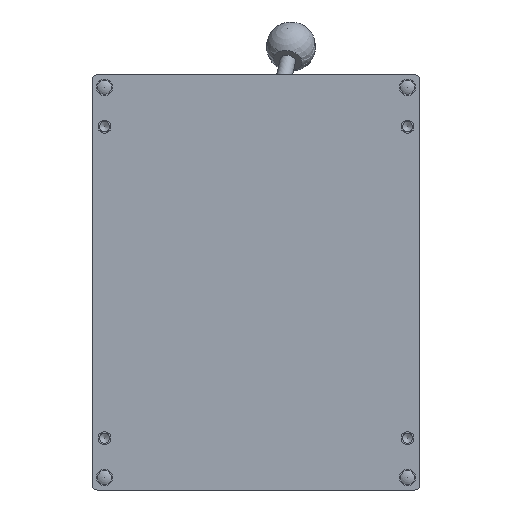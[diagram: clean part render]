
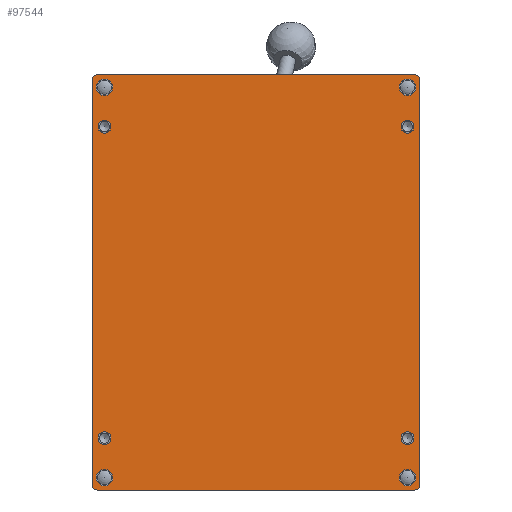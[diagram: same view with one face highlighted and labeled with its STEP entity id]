
A CAD part, front view. The second image highlights one B-rep face of the part: STEP entity #97544.
In plain terms, the highlighted planar face has unit normal (0, -1, 0).
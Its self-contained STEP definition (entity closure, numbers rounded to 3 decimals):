
#4563=FACE_BOUND('',#18956,.T.);
#4564=FACE_BOUND('',#18957,.T.);
#4565=FACE_BOUND('',#18958,.T.);
#4566=FACE_BOUND('',#18959,.T.);
#4567=FACE_BOUND('',#18960,.T.);
#4568=FACE_BOUND('',#18961,.T.);
#4569=FACE_BOUND('',#18962,.T.);
#4570=FACE_BOUND('',#18963,.T.);
#7310=PLANE('',#108924);
#12542=FACE_OUTER_BOUND('',#18955,.T.);
#18955=EDGE_LOOP('',(#78135,#78136,#78137,#78138,#78139,#78140,#78141,#78142));
#18956=EDGE_LOOP('',(#78143));
#18957=EDGE_LOOP('',(#78144));
#18958=EDGE_LOOP('',(#78145));
#18959=EDGE_LOOP('',(#78146));
#18960=EDGE_LOOP('',(#78147));
#18961=EDGE_LOOP('',(#78148));
#18962=EDGE_LOOP('',(#78149));
#18963=EDGE_LOOP('',(#78150));
#24123=CIRCLE('',#108910,0.125);
#24124=CIRCLE('',#108913,0.125);
#24129=CIRCLE('',#108925,0.125);
#24130=CIRCLE('',#108926,0.125);
#24131=CIRCLE('',#108927,0.156);
#24132=CIRCLE('',#108928,0.156);
#24133=CIRCLE('',#108929,0.156);
#24134=CIRCLE('',#108930,0.156);
#24135=CIRCLE('',#108931,0.2);
#24136=CIRCLE('',#108932,0.2);
#24137=CIRCLE('',#108933,0.2);
#24138=CIRCLE('',#108934,0.2);
#29384=LINE('',#170494,#34856);
#29387=LINE('',#170502,#34859);
#29396=LINE('',#170540,#34868);
#29397=LINE('',#170543,#34869);
#34856=VECTOR('',#135070,1.);
#34859=VECTOR('',#135079,1.);
#34868=VECTOR('',#135110,1.);
#34869=VECTOR('',#135113,1.);
#42701=VERTEX_POINT('',#170486);
#42702=VERTEX_POINT('',#170488);
#42703=VERTEX_POINT('',#170492);
#42704=VERTEX_POINT('',#170496);
#42705=VERTEX_POINT('',#170500);
#42722=VERTEX_POINT('',#170537);
#42723=VERTEX_POINT('',#170539);
#42724=VERTEX_POINT('',#170541);
#42725=VERTEX_POINT('',#170544);
#42726=VERTEX_POINT('',#170546);
#42727=VERTEX_POINT('',#170548);
#42728=VERTEX_POINT('',#170550);
#42729=VERTEX_POINT('',#170552);
#42730=VERTEX_POINT('',#170554);
#42731=VERTEX_POINT('',#170556);
#42732=VERTEX_POINT('',#170558);
#54896=EDGE_CURVE('',#42701,#42702,#24123,.T.);
#54899=EDGE_CURVE('',#42701,#42703,#29384,.T.);
#54901=EDGE_CURVE('',#42704,#42703,#24124,.T.);
#54903=EDGE_CURVE('',#42704,#42705,#29387,.T.);
#54920=EDGE_CURVE('',#42722,#42705,#24129,.T.);
#54921=EDGE_CURVE('',#42722,#42723,#29396,.T.);
#54922=EDGE_CURVE('',#42724,#42723,#24130,.T.);
#54923=EDGE_CURVE('',#42724,#42702,#29397,.T.);
#54924=EDGE_CURVE('',#42725,#42725,#24131,.T.);
#54925=EDGE_CURVE('',#42726,#42726,#24132,.T.);
#54926=EDGE_CURVE('',#42727,#42727,#24133,.T.);
#54927=EDGE_CURVE('',#42728,#42728,#24134,.T.);
#54928=EDGE_CURVE('',#42729,#42729,#24135,.T.);
#54929=EDGE_CURVE('',#42730,#42730,#24136,.T.);
#54930=EDGE_CURVE('',#42731,#42731,#24137,.T.);
#54931=EDGE_CURVE('',#42732,#42732,#24138,.T.);
#78135=ORIENTED_EDGE('',*,*,#54901,.F.);
#78136=ORIENTED_EDGE('',*,*,#54903,.T.);
#78137=ORIENTED_EDGE('',*,*,#54920,.F.);
#78138=ORIENTED_EDGE('',*,*,#54921,.T.);
#78139=ORIENTED_EDGE('',*,*,#54922,.F.);
#78140=ORIENTED_EDGE('',*,*,#54923,.T.);
#78141=ORIENTED_EDGE('',*,*,#54896,.F.);
#78142=ORIENTED_EDGE('',*,*,#54899,.T.);
#78143=ORIENTED_EDGE('',*,*,#54924,.T.);
#78144=ORIENTED_EDGE('',*,*,#54925,.T.);
#78145=ORIENTED_EDGE('',*,*,#54926,.T.);
#78146=ORIENTED_EDGE('',*,*,#54927,.T.);
#78147=ORIENTED_EDGE('',*,*,#54928,.T.);
#78148=ORIENTED_EDGE('',*,*,#54929,.T.);
#78149=ORIENTED_EDGE('',*,*,#54930,.T.);
#78150=ORIENTED_EDGE('',*,*,#54931,.T.);
#97544=ADVANCED_FACE('',(#12542,#4563,#4564,#4565,#4566,#4567,#4568,#4569,
#4570),#7310,.F.);
#108910=AXIS2_PLACEMENT_3D('',#170489,#135064,#135065);
#108913=AXIS2_PLACEMENT_3D('',#170498,#135074,#135075);
#108924=AXIS2_PLACEMENT_3D('',#170536,#135106,#135107);
#108925=AXIS2_PLACEMENT_3D('',#170538,#135108,#135109);
#108926=AXIS2_PLACEMENT_3D('',#170542,#135111,#135112);
#108927=AXIS2_PLACEMENT_3D('',#170545,#135114,#135115);
#108928=AXIS2_PLACEMENT_3D('',#170547,#135116,#135117);
#108929=AXIS2_PLACEMENT_3D('',#170549,#135118,#135119);
#108930=AXIS2_PLACEMENT_3D('',#170551,#135120,#135121);
#108931=AXIS2_PLACEMENT_3D('',#170553,#135122,#135123);
#108932=AXIS2_PLACEMENT_3D('',#170555,#135124,#135125);
#108933=AXIS2_PLACEMENT_3D('',#170557,#135126,#135127);
#108934=AXIS2_PLACEMENT_3D('',#170559,#135128,#135129);
#135064=DIRECTION('center_axis',(0.,1.,0.));
#135065=DIRECTION('ref_axis',(0.707,0.,0.707));
#135070=DIRECTION('',(-1.,0.,0.));
#135074=DIRECTION('center_axis',(0.,1.,0.));
#135075=DIRECTION('ref_axis',(-0.707,0.,0.707));
#135079=DIRECTION('',(0.,0.,-1.));
#135106=DIRECTION('center_axis',(0.,1.,0.));
#135107=DIRECTION('ref_axis',(1.,0.,0.));
#135108=DIRECTION('center_axis',(0.,1.,0.));
#135109=DIRECTION('ref_axis',(-0.707,0.,
-0.707));
#135110=DIRECTION('',(1.,0.,0.));
#135111=DIRECTION('center_axis',(0.,1.,0.));
#135112=DIRECTION('ref_axis',(0.707,0.,-0.707));
#135113=DIRECTION('',(0.,0.,1.));
#135114=DIRECTION('center_axis',(0.,1.,0.));
#135115=DIRECTION('ref_axis',(1.,0.,0.));
#135116=DIRECTION('center_axis',(0.,1.,0.));
#135117=DIRECTION('ref_axis',(1.,0.,0.));
#135118=DIRECTION('center_axis',(0.,1.,0.));
#135119=DIRECTION('ref_axis',(1.,0.,0.));
#135120=DIRECTION('center_axis',(0.,1.,0.));
#135121=DIRECTION('ref_axis',(1.,0.,0.));
#135122=DIRECTION('center_axis',(0.,1.,0.));
#135123=DIRECTION('ref_axis',(1.,0.,0.));
#135124=DIRECTION('center_axis',(0.,1.,0.));
#135125=DIRECTION('ref_axis',(1.,0.,0.));
#135126=DIRECTION('center_axis',(0.,1.,0.));
#135127=DIRECTION('ref_axis',(1.,0.,0.));
#135128=DIRECTION('center_axis',(0.,1.,0.));
#135129=DIRECTION('ref_axis',(1.,0.,0.));
#170486=CARTESIAN_POINT('',(-60.534,28.448,22.332));
#170488=CARTESIAN_POINT('',(-60.409,28.448,22.207));
#170489=CARTESIAN_POINT('Origin',(-60.534,28.448,22.207));
#170492=CARTESIAN_POINT('',(-68.184,28.448,22.332));
#170494=CARTESIAN_POINT('',(-64.359,28.448,22.332));
#170496=CARTESIAN_POINT('',(-68.309,28.448,22.207));
#170498=CARTESIAN_POINT('Origin',(-68.184,28.448,22.207));
#170500=CARTESIAN_POINT('',(-68.309,28.448,12.457));
#170502=CARTESIAN_POINT('',(-68.309,28.448,17.332));
#170536=CARTESIAN_POINT('Origin',(-64.359,28.448,17.332));
#170537=CARTESIAN_POINT('',(-68.184,28.448,12.332));
#170538=CARTESIAN_POINT('Origin',(-68.184,28.448,12.457));
#170539=CARTESIAN_POINT('',(-60.534,28.448,12.332));
#170540=CARTESIAN_POINT('',(-64.359,28.448,12.332));
#170541=CARTESIAN_POINT('',(-60.409,28.448,12.457));
#170542=CARTESIAN_POINT('Origin',(-60.534,28.448,12.457));
#170543=CARTESIAN_POINT('',(-60.409,28.448,17.332));
#170544=CARTESIAN_POINT('',(-60.865,28.448,21.082));
#170545=CARTESIAN_POINT('Origin',(-60.709,28.448,21.082));
#170546=CARTESIAN_POINT('',(-68.165,28.448,13.582));
#170547=CARTESIAN_POINT('Origin',(-68.009,28.448,13.582));
#170548=CARTESIAN_POINT('',(-60.865,28.448,13.582));
#170549=CARTESIAN_POINT('Origin',(-60.709,28.448,13.582));
#170550=CARTESIAN_POINT('',(-68.165,28.448,21.082));
#170551=CARTESIAN_POINT('Origin',(-68.009,28.448,21.082));
#170552=CARTESIAN_POINT('',(-60.909,28.448,22.032));
#170553=CARTESIAN_POINT('Origin',(-60.709,28.448,22.032));
#170554=CARTESIAN_POINT('',(-60.909,28.448,12.632));
#170555=CARTESIAN_POINT('Origin',(-60.709,28.448,12.632));
#170556=CARTESIAN_POINT('',(-68.209,28.448,12.632));
#170557=CARTESIAN_POINT('Origin',(-68.009,28.448,12.632));
#170558=CARTESIAN_POINT('',(-68.209,28.448,22.032));
#170559=CARTESIAN_POINT('Origin',(-68.009,28.448,22.032));
